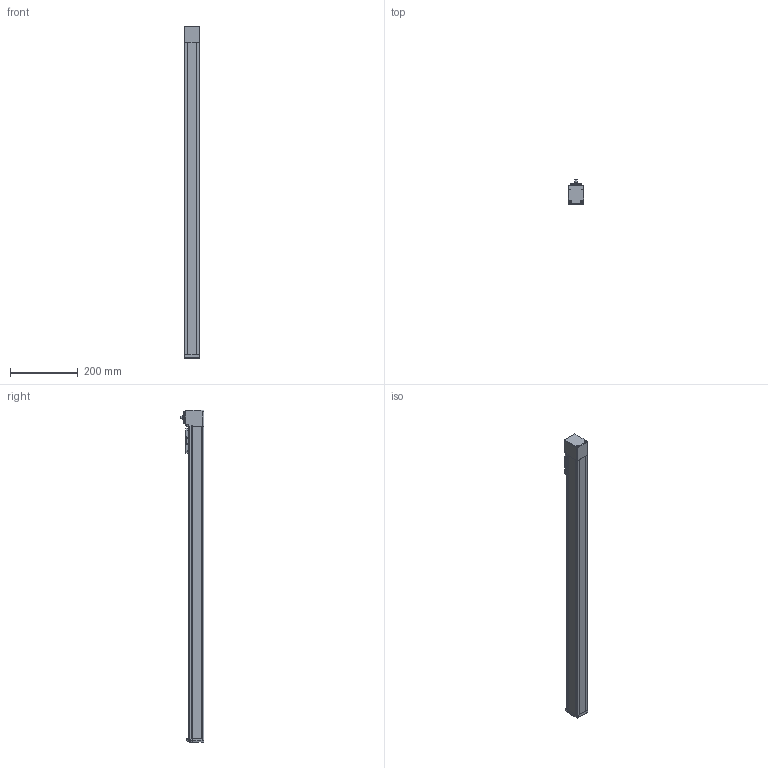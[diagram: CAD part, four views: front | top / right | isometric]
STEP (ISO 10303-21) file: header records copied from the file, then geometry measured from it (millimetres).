
FILE_DESCRIPTION(/* description */ ('STEP AP203'),/* implementation_level */ '2;1');
FILE_NAME(/* name */ 'MGTB 45 800(0)',/* time_stamp */ '2023-04-17T14:33:22+02:00',/* author */ ('License CC BY-ND 4.0'),/* organization */ ('CADENAS'),/* preprocessor_version */ 'ST-DEVELOPER v19.3',/* originating_system */ 'PARTsolutions',/* authorisation */ ' ');
FILE_SCHEMA (('CONFIG_CONTROL_DESIGN'));
Length unit declared in the file: millimetre
Products named in the file (6): MGTB 45 800(0); MGTB 45 800_protection_strip; MGTB 45_carriage; MGTB 45_end_block; MGTB 45 800_profile; MGTB 45_drive_block
Assembly tree (5 placements, depth 2):
  MGTB 45 800(0)
    MGTB 45 800_protection_strip
    MGTB 45_carriage
    MGTB 45_end_block
    MGTB 45 800_profile
    MGTB 45_drive_block
Bounding box: 45 x 70.85 x 983 mm (x, y, z)
Volume: 1925377.5 mm3; surface area: 299196.1 mm2
Topology: 5 solids, 5 shells, 689 faces, 1789 edges, 1148 vertices
Faces by surface type: plane 324, cylinder 173, cone 95, bspline 68, torus 27, sphere 2
Full cylindrical faces by diameter (mm): 1.755 x4, 2.459 x10, 2.5 x6, 3 x6, 3.242 x8, 3.8 x6, 4 x2, 4.5 x2, 5.5 x4, 6.5 x4, 8 x1, 11 x3, 12 x1, 17.12 x1, 17.5 x1, 22.5 x1, 22.88 x1, 24.5 x1, 28 x1, 34 x2
Entity records: 25091 total; most frequent: CARTESIAN_POINT 4283, DIRECTION 3440, ORIENTED_EDGE 3206, EDGE_CURVE 1603, AXIS2_PLACEMENT_3D 1244, VERTEX_POINT 1133, LINE 952, VECTOR 952
